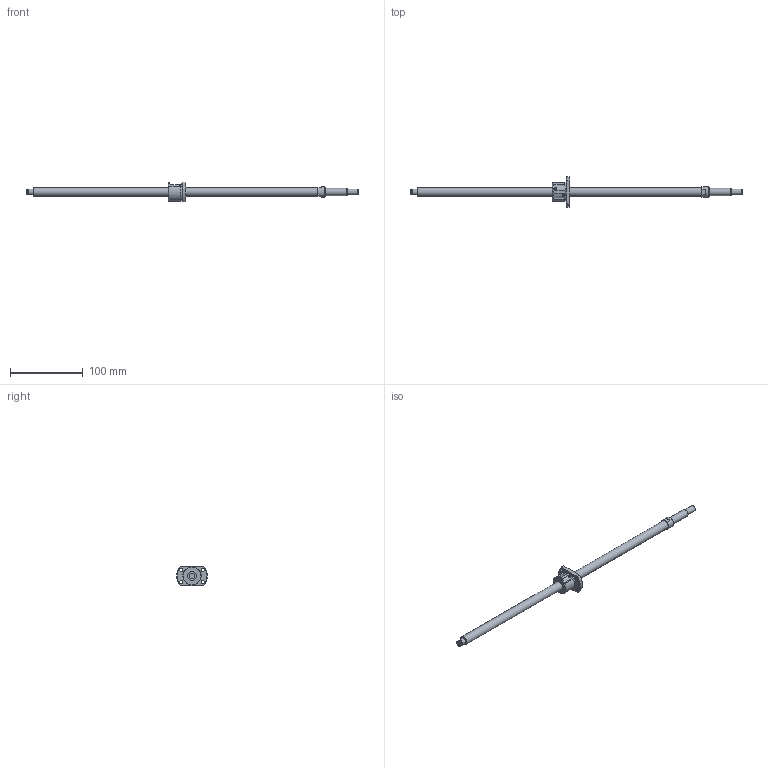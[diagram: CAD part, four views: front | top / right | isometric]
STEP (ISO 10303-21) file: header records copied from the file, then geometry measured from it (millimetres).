
FILE_DESCRIPTION(/* description */ ('STEP AP214'),/* implementation_level */ '2;1');
FILE_NAME(/* name */ 'SRT1202-386R455C7B0X(185Processing)',/* time_stamp */ '2026-08-06T15:12:36+02:00',/* author */ ('License CC BY-ND 4.0'),/* organization */ ('CADENAS'),/* preprocessor_version */ 'ST-DEVELOPER v20',/* originating_system */ 'PARTsolutions',/* authorisation */ ' ');
FILE_SCHEMA (('AUTOMOTIVE_DESIGN {1 0 10303 214 3 1 1}'));
Length unit declared in the file: millimetre
Products named in the file (3): SRT1202-386R455C7B0X(185Processing); SRT1202-386R470BCt7Processing78Shaft; SRT1202Nut
Assembly tree (2 placements, depth 2):
  SRT1202-386R455C7B0X(185Processing)
    SRT1202-386R470BCt7Processing78Shaft
    SRT1202Nut
Bounding box: 455 x 42 x 27 mm (x, y, z)
Volume: 60086.6 mm3; surface area: 22054.3 mm2
Topology: 2 solids, 2 shells, 75 faces, 173 edges, 110 vertices
Faces by surface type: plane 46, cylinder 18, cone 10, torus 1
Full cylindrical faces by diameter (mm): 4.5 x4, 7.6 x1, 8 x3, 10 x1, 12 x2, 14 x1, 24.5 x1, 25 x1
Entity records: 2055 total; most frequent: CARTESIAN_POINT 366, DIRECTION 352, ORIENTED_EDGE 286, EDGE_CURVE 143, AXIS2_PLACEMENT_3D 141, EDGE_LOOP 114, FACE_BOUND 114, VERTEX_POINT 101
